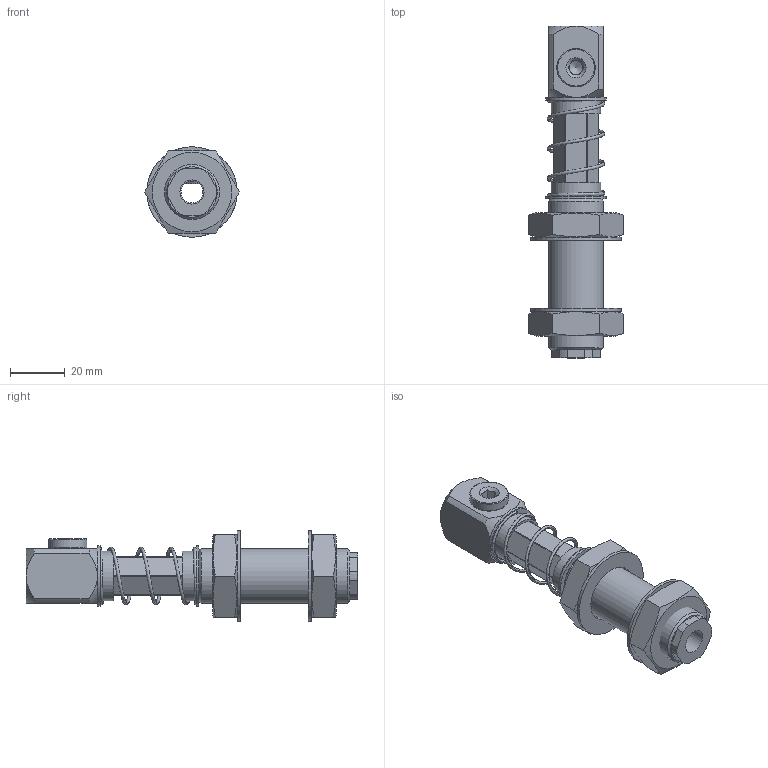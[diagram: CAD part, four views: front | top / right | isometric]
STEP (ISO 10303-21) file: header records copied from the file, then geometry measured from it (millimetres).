
FILE_DESCRIPTION(('STEP AP214'),'1');
FILE_NAME('CA.SAEG.20141825.stp','2020-09-16T09:04:20',(' '),(' '),'Spatial InterOp 3D',' ',' ');
FILE_SCHEMA(('AUTOMOTIVE_DESIGN { 1 0 10303 214 1 1 1 1 }'));
Length unit declared in the file: millimetre
Products named in the file (10): CA.SAEG.20141825; R.20.SCH; 05.02.001.06; M.21x44; SAE.20141825.5; SAE.20141825.4; CA.08.14.014; SAEG.20141825.3; SAE.20141825.2; SAE.20141825.1
Assembly tree (12 placements, depth 2):
  CA.SAEG.20141825
    R.20.SCH  x2
    05.02.001.06  x2
    M.21x44
    SAE.20141825.5
    SAE.20141825.4  x2
    CA.08.14.014
    SAEG.20141825.3
    SAE.20141825.2
    SAE.20141825.1
Bounding box: 34.64 x 121 x 33 mm (x, y, z)
Volume: 37734.9 mm3; surface area: 29945.7 mm2
Topology: 12 solids, 12 shells, 186 faces, 430 edges, 273 vertices
Faces by surface type: plane 84, cylinder 57, cone 35, bspline 9, torus 1
Full cylindrical faces by diameter (mm): 5.1 x1, 8 x2, 8.2 x1, 8.8 x2, 9.728 x1, 11 x4, 11.8 x2, 12 x4, 12.1 x2, 14 x2, 16 x1, 16.15 x2, 18 x2, 18.5 x2, 20 x1, 21 x2, 22 x2, 33 x2
Entity records: 8757 total; most frequent: CARTESIAN_POINT 3524, DIRECTION 678, ORIENTED_EDGE 650, EDGE_CURVE 325, AXIS2_PLACEMENT_3D 292, EDGE_LOOP 234, VERTEX_POINT 232, FACE_OUTER_BOUND 195
